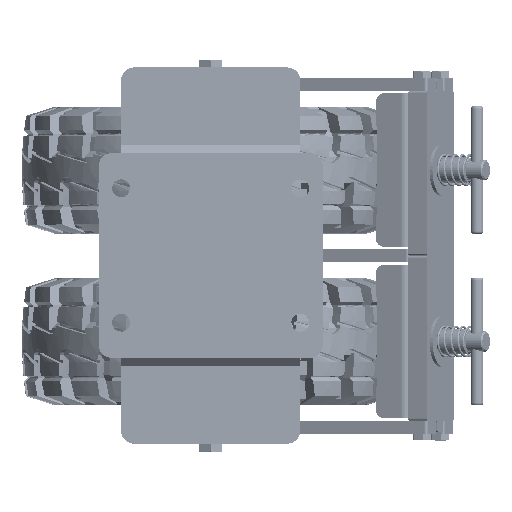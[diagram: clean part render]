
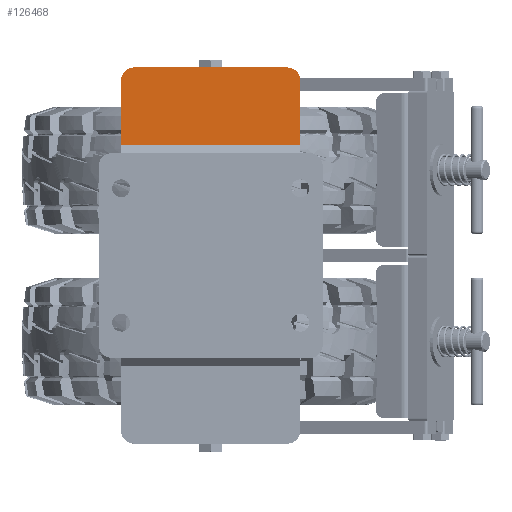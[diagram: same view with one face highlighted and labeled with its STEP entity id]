
A CAD part, top view. The second image highlights one B-rep face of the part: STEP entity #126468.
In plain terms, the highlighted planar face has unit normal (0, 0, 1).
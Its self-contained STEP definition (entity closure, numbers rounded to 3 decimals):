
#6832=PLANE('',#133857);
#18040=LINE('',#229041,#23541);
#18163=LINE('',#229312,#23664);
#18164=LINE('',#229316,#23665);
#18165=LINE('',#229319,#23666);
#23541=VECTOR('',#148766,10.);
#23664=VECTOR('',#149051,10.);
#23665=VECTOR('',#149054,10.);
#23666=VECTOR('',#149057,10.);
#29624=FACE_OUTER_BOUND('',#36893,.T.);
#36893=EDGE_LOOP('',(#105036,#105037,#105038,#105039,#105040,#105041));
#51359=CIRCLE('',#133858,10.);
#51360=CIRCLE('',#133859,10.);
#59869=VERTEX_POINT('',#229039);
#59870=VERTEX_POINT('',#229040);
#59937=VERTEX_POINT('',#229311);
#59938=VERTEX_POINT('',#229313);
#59939=VERTEX_POINT('',#229315);
#59940=VERTEX_POINT('',#229317);
#75685=EDGE_CURVE('',#59869,#59870,#18040,.T.);
#75828=EDGE_CURVE('',#59870,#59937,#18163,.T.);
#75829=EDGE_CURVE('',#59937,#59938,#51359,.T.);
#75830=EDGE_CURVE('',#59938,#59939,#18164,.T.);
#75831=EDGE_CURVE('',#59939,#59940,#51360,.T.);
#75832=EDGE_CURVE('',#59940,#59869,#18165,.T.);
#105036=ORIENTED_EDGE('',*,*,#75685,.T.);
#105037=ORIENTED_EDGE('',*,*,#75828,.T.);
#105038=ORIENTED_EDGE('',*,*,#75829,.T.);
#105039=ORIENTED_EDGE('',*,*,#75830,.T.);
#105040=ORIENTED_EDGE('',*,*,#75831,.T.);
#105041=ORIENTED_EDGE('',*,*,#75832,.T.);
#126468=ADVANCED_FACE('',(#29624),#6832,.T.);
#133857=AXIS2_PLACEMENT_3D('',#229310,#149049,#149050);
#133858=AXIS2_PLACEMENT_3D('',#229314,#149052,#149053);
#133859=AXIS2_PLACEMENT_3D('',#229318,#149055,#149056);
#148766=DIRECTION('',(1.,0.,0.));
#149049=DIRECTION('center_axis',(0.,0.,1.));
#149050=DIRECTION('ref_axis',(1.,0.,0.));
#149051=DIRECTION('',(0.,1.,0.));
#149052=DIRECTION('center_axis',(0.,0.,1.));
#149053=DIRECTION('ref_axis',(1.,0.,0.));
#149054=DIRECTION('',(-1.,0.,0.));
#149055=DIRECTION('center_axis',(0.,0.,1.));
#149056=DIRECTION('ref_axis',(0.,1.,0.));
#149057=DIRECTION('',(0.,-1.,0.));
#229039=CARTESIAN_POINT('',(-70.,86.,0.));
#229040=CARTESIAN_POINT('',(70.,86.,0.));
#229041=CARTESIAN_POINT('',(35.,86.,0.));
#229310=CARTESIAN_POINT('Origin',(0.,0.,
0.));
#229311=CARTESIAN_POINT('',(70.,137.,0.));
#229312=CARTESIAN_POINT('',(70.,80.784,0.));
#229313=CARTESIAN_POINT('',(60.,147.,0.));
#229314=CARTESIAN_POINT('Origin',(60.,137.,0.));
#229315=CARTESIAN_POINT('',(-60.,147.,0.));
#229316=CARTESIAN_POINT('',(60.,147.,0.));
#229317=CARTESIAN_POINT('',(-70.,137.,0.));
#229318=CARTESIAN_POINT('Origin',(-60.,137.,0.));
#229319=CARTESIAN_POINT('',(-70.,137.,0.));
